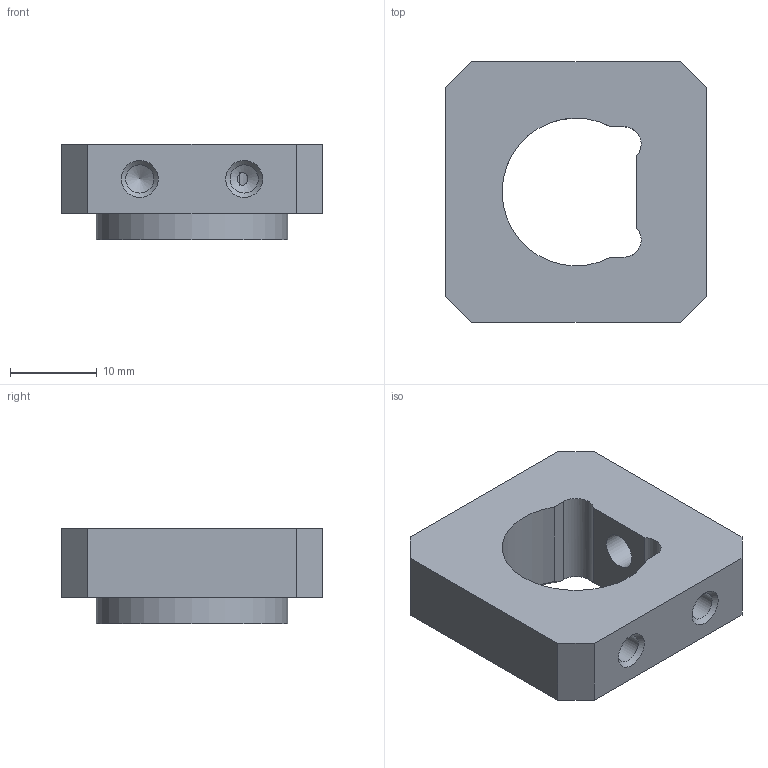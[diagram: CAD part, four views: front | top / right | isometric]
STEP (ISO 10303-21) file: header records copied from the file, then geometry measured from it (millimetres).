
FILE_DESCRIPTION(('STEP AP203'), '1');
FILE_NAME('ﾒﾏﾏﾔ1801.01.08.02.006 - ﾏ魵鮏鶴', '', ('UNSPECIFIED'), ('UNSPECIFIED'), 'C3D Converter', 'C3D Toolkit', '');
FILE_SCHEMA(('CONFIG_CONTROL_DESIGN'));
Length unit declared in the file: millimetre
Products named in the file (1): ТППФ1801.01.08.02.006
Bounding box: 30 x 30 x 11 mm (x, y, z)
Volume: 5476.4 mm3; surface area: 3230.8 mm2
Topology: 1 solids, 1 shells, 28 faces, 73 edges, 47 vertices
Faces by surface type: plane 15, cylinder 7, cone 6
Full cylindrical faces by diameter (mm): 3.242 x2, 4.134 x1, 22 x1
Entity records: 1136 total; most frequent: CARTESIAN_POINT 210, DIRECTION 134, ORIENTED_EDGE 126, EDGE_CURVE 63, AXIS2_PLACEMENT_3D 48, VERTEX_POINT 46, EDGE_LOOP 43, LINE 38
